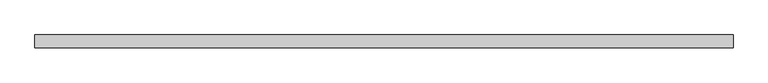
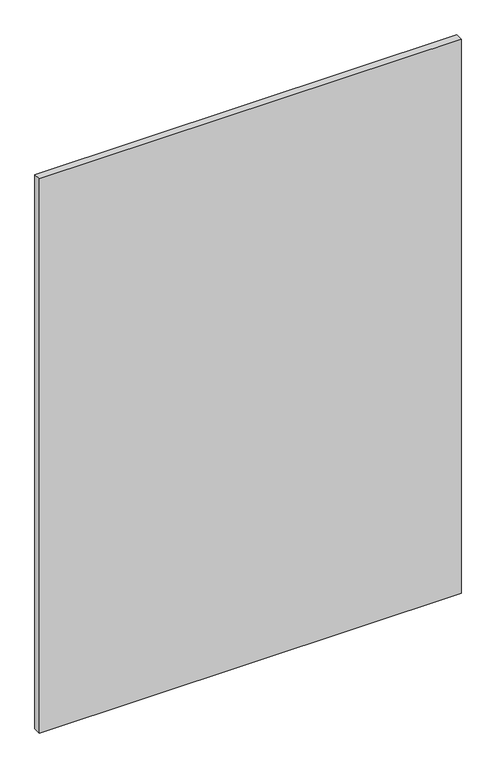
"""IFC4 building model written with IfcOpenShell, lengths in millimetres: plate geometry, Vitré."""

from ifc_helpers import new_model, si_unit, origin, origin_with_axes, place, context, project, spatial, polyline, outline, extrude, source, transform, mapped, element, save


def plate_d2420ca8(model_context):
    return source(origin(), model_context, "Body", "SweptSolid", [
        extrude(outline(polyline([(-1096.8593625, -20.0), (-1096.8593625, 20.0), (1096.8593625, 20.0), (1096.8593625, -20.0), (-1096.8593625, -20.0)])), origin_with_axes(), (0.0, 0.0, 1.0), 3047.625),
    ])


if __name__ == "__main__":
    model = new_model("IFC4")
    model_context = context("Model", 3, world=origin())
    ifc_project = project(units=[si_unit("LENGTHUNIT", "METRE", prefix="MILLI")], contexts=[model_context])
    site = spatial("IfcSite", under=ifc_project)
    building = spatial("IfcBuilding", under=site)
    placement = place(None, origin())
    plate_shape = plate_d2420ca8(model_context)
    element("IfcPlate", 1, ObjectType="Vitré", at=placement, inside=building, context=model_context, shape_type="MappedRepresentation", body=[
        mapped(plate_shape, transform((0.0, 0.0, 0.0), x_axis=(1.0, 0.0, 0.0), y_axis=(0.0, 1.0, 0.0), z_axis=(0.0, 0.0, 1.0))),
    ])
    save(model, "model.ifc")
